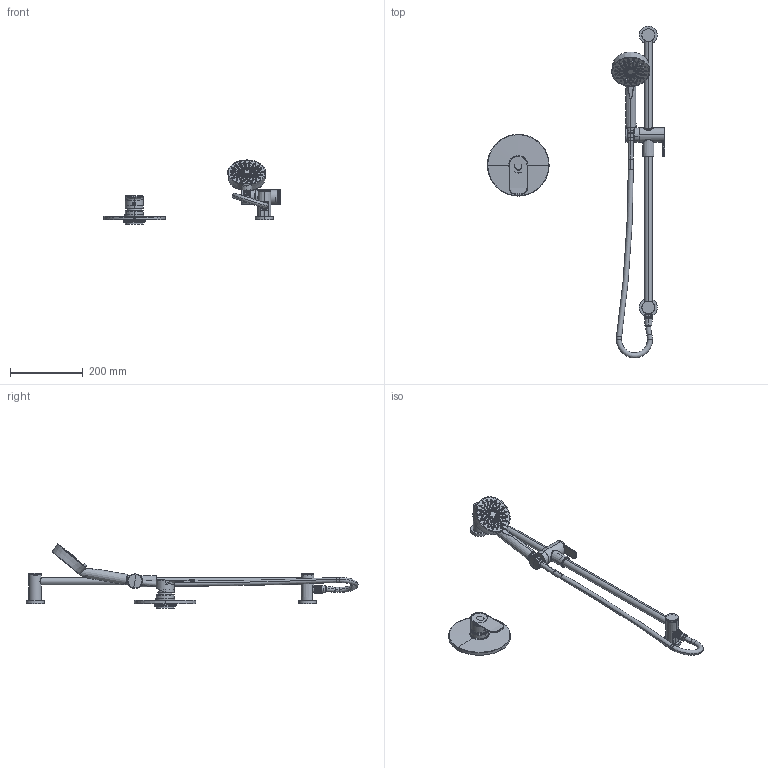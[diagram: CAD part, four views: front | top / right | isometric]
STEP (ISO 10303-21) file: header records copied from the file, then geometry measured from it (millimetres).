
FILE_DESCRIPTION (( 'STEP AP203' ), '1' );
FILE_NAME ('O30-9139-X6.STEP', '2023-11-13T19:56:48', ( '' ), ( '' ), 'SwSTEP 2.0', 'SolidWorks 2022', '' );
FILE_SCHEMA (( 'CONFIG_CONTROL_DESIGN' ));
Length unit declared in the file: millimetre
Products named in the file (8): O30-9149-X6_for render.STEP; T30-9139-00- render only.STEP.STEP; O30-9139-X6; MAN-9O30-50_D_faut.STEP.STEP; KIT-9020-00_D_faut.STEP.STEP; Part8^O30-9149-X6_for render.STEP; PLA-9019-30-A1_D_faut.STEP.STEP; DGL-2175-83_for render.step.STEP
Assembly tree (7 placements, depth 4):
  O30-9139-X6
    O30-9149-X6_for render.STEP
      T30-9139-00- render only.STEP.STEP
        PLA-9019-30-A1_D_faut.STEP.STEP
        MAN-9O30-50_D_faut.STEP.STEP
        KIT-9020-00_D_faut.STEP.STEP
      DGL-2175-83_for render.step.STEP
      Part8^O30-9149-X6_for render.STEP
Bounding box: 487.88 x 914 x 176.31 mm (x, y, z)
Volume: 1171846.6 mm3; surface area: 329579.3 mm2
Topology: 20 solids, 22 shells, 2339 faces, 5680 edges, 3668 vertices
Faces by surface type: plane 873, cylinder 607, cone 326, torus 267, sphere 134, bspline 132
Entity records: 93882 total; most frequent: CARTESIAN_POINT 37819, DIRECTION 12025, ORIENTED_EDGE 11338, EDGE_CURVE 5669, AXIS2_PLACEMENT_3D 5034, VERTEX_POINT 3668, CIRCLE 2815, EDGE_LOOP 2661
